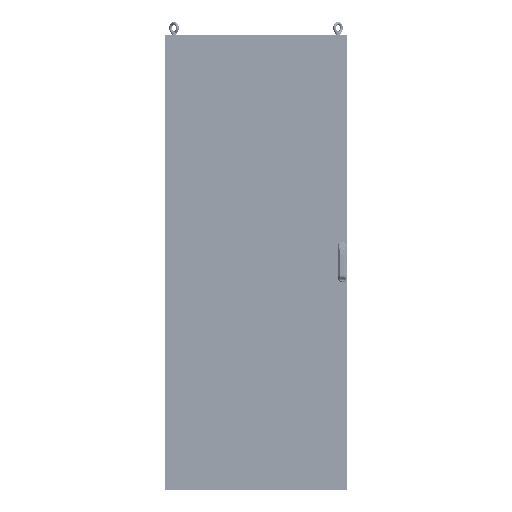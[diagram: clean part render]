
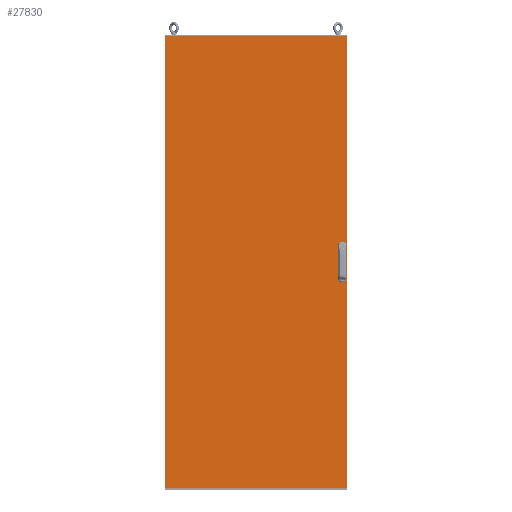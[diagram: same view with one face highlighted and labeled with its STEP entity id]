
A CAD part, front view. The second image highlights one B-rep face of the part: STEP entity #27830.
In plain terms, the highlighted planar face has unit normal (0, -1, 0).
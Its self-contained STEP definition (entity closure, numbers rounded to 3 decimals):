
#7290=ORIENTED_EDGE('',*,*,#12298,.T.);
#7291=ORIENTED_EDGE('',*,*,#12299,.T.);
#7292=ORIENTED_EDGE('',*,*,#12300,.T.);
#7293=ORIENTED_EDGE('',*,*,#12301,.T.);
#7294=ORIENTED_EDGE('',*,*,#12302,.T.);
#7295=ORIENTED_EDGE('',*,*,#12303,.T.);
#7296=ORIENTED_EDGE('',*,*,#12304,.T.);
#7297=ORIENTED_EDGE('',*,*,#12305,.T.);
#7298=ORIENTED_EDGE('',*,*,#12292,.F.);
#7299=ORIENTED_EDGE('',*,*,#12295,.F.);
#7300=ORIENTED_EDGE('',*,*,#12289,.F.);
#7301=ORIENTED_EDGE('',*,*,#12297,.F.);
#12289=EDGE_CURVE('',#15225,#15223,#17959,.T.);
#12292=EDGE_CURVE('',#15228,#15229,#17962,.T.);
#12295=EDGE_CURVE('',#15223,#15228,#17965,.T.);
#12297=EDGE_CURVE('',#15229,#15225,#17967,.T.);
#12298=EDGE_CURVE('',#15230,#15231,#17968,.T.);
#12299=EDGE_CURVE('',#15231,#15232,#17969,.T.);
#12300=EDGE_CURVE('',#15232,#15233,#17970,.T.);
#12301=EDGE_CURVE('',#15233,#15230,#17971,.T.);
#12302=EDGE_CURVE('',#15234,#15235,#17972,.T.);
#12303=EDGE_CURVE('',#15235,#15236,#17973,.T.);
#12304=EDGE_CURVE('',#15236,#15237,#17974,.T.);
#12305=EDGE_CURVE('',#15237,#15234,#17975,.T.);
#15223=VERTEX_POINT('',#47155);
#15225=VERTEX_POINT('',#47159);
#15228=VERTEX_POINT('',#47166);
#15229=VERTEX_POINT('',#47168);
#15230=VERTEX_POINT('',#47179);
#15231=VERTEX_POINT('',#47180);
#15232=VERTEX_POINT('',#47182);
#15233=VERTEX_POINT('',#47184);
#15234=VERTEX_POINT('',#47187);
#15235=VERTEX_POINT('',#47188);
#15236=VERTEX_POINT('',#47190);
#15237=VERTEX_POINT('',#47192);
#17959=LINE('',#47160,#20506);
#17962=LINE('',#47167,#20509);
#17965=LINE('',#47172,#20512);
#17967=LINE('',#47175,#20514);
#17968=LINE('',#47178,#20515);
#17969=LINE('',#47181,#20516);
#17970=LINE('',#47183,#20517);
#17971=LINE('',#47185,#20518);
#17972=LINE('',#47186,#20519);
#17973=LINE('',#47189,#20520);
#17974=LINE('',#47191,#20521);
#17975=LINE('',#47193,#20522);
#20506=VECTOR('',#38970,1000.);
#20509=VECTOR('',#38975,1000.);
#20512=VECTOR('',#38980,1000.);
#20514=VECTOR('',#38984,1000.);
#20515=VECTOR('',#38989,1000.);
#20516=VECTOR('',#38990,1000.);
#20517=VECTOR('',#38991,1000.);
#20518=VECTOR('',#38992,1000.);
#20519=VECTOR('',#38993,1000.);
#20520=VECTOR('',#38994,1000.);
#20521=VECTOR('',#38995,1000.);
#20522=VECTOR('',#38996,1000.);
#22642=EDGE_LOOP('',(#7290,#7291,#7292,#7293));
#22643=EDGE_LOOP('',(#7294,#7295,#7296,#7297));
#22644=EDGE_LOOP('',(#7298,#7299,#7300,#7301));
#24951=FACE_BOUND('',#22642,.T.);
#24952=FACE_BOUND('',#22643,.T.);
#24953=FACE_BOUND('',#22644,.T.);
#26565=PLANE('',#32916);
#27830=ADVANCED_FACE('',(#24951,#24952,#24953),#26565,.F.);
#32916=AXIS2_PLACEMENT_3D('',#47177,#38987,#38988);
#38970=DIRECTION('',(0.,0.,-1.));
#38975=DIRECTION('',(0.,0.,1.));
#38980=DIRECTION('',(-1.,0.,0.));
#38984=DIRECTION('',(1.,0.,0.));
#38987=DIRECTION('',(0.,1.,0.));
#38988=DIRECTION('',(-1.,0.,0.));
#38989=DIRECTION('',(-1.,0.,0.));
#38990=DIRECTION('',(0.,0.,1.));
#38991=DIRECTION('',(1.,0.,0.));
#38992=DIRECTION('',(0.,0.,-1.));
#38993=DIRECTION('',(-1.,0.,0.));
#38994=DIRECTION('',(0.,0.,1.));
#38995=DIRECTION('',(1.,0.,0.));
#38996=DIRECTION('',(0.,0.,-1.));
#47155=CARTESIAN_POINT('',(399.,-13.,-995.));
#47159=CARTESIAN_POINT('',(399.,-13.,995.));
#47160=CARTESIAN_POINT('',(399.,-13.,995.));
#47166=CARTESIAN_POINT('',(-399.,-13.,-995.));
#47167=CARTESIAN_POINT('',(-399.,-13.,-995.));
#47168=CARTESIAN_POINT('',(-399.,-13.,995.));
#47172=CARTESIAN_POINT('',(399.,-13.,-995.));
#47175=CARTESIAN_POINT('',(-399.,-13.,995.));
#47177=CARTESIAN_POINT('',(0.,-13.,0.));
#47178=CARTESIAN_POINT('',(390.5,-13.,25.));
#47179=CARTESIAN_POINT('',(390.5,-13.,25.));
#47180=CARTESIAN_POINT('',(365.5,-13.,25.));
#47181=CARTESIAN_POINT('',(365.5,-13.,25.));
#47182=CARTESIAN_POINT('',(365.5,-13.,75.));
#47183=CARTESIAN_POINT('',(365.5,-13.,75.));
#47184=CARTESIAN_POINT('',(390.5,-13.,75.));
#47185=CARTESIAN_POINT('',(390.5,-13.,75.));
#47186=CARTESIAN_POINT('',(390.5,-13.,-75.));
#47187=CARTESIAN_POINT('',(390.5,-13.,-75.));
#47188=CARTESIAN_POINT('',(365.5,-13.,-75.));
#47189=CARTESIAN_POINT('',(365.5,-13.,-75.));
#47190=CARTESIAN_POINT('',(365.5,-13.,-25.));
#47191=CARTESIAN_POINT('',(365.5,-13.,-25.));
#47192=CARTESIAN_POINT('',(390.5,-13.,-25.));
#47193=CARTESIAN_POINT('',(390.5,-13.,-25.));
